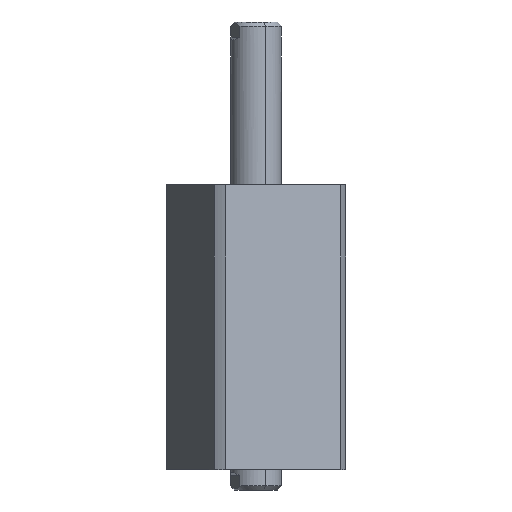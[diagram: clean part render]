
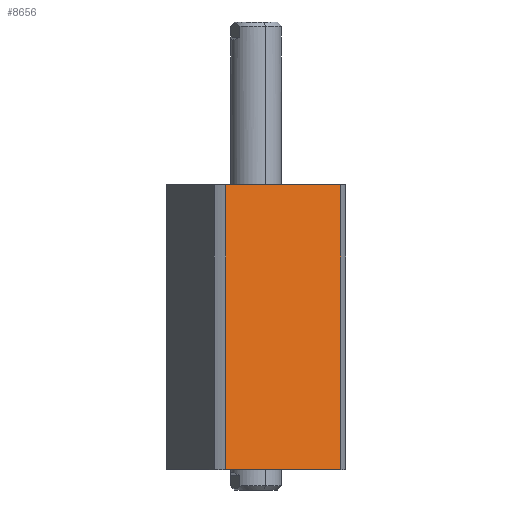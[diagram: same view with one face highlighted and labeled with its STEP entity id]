
A CAD part, front view. The second image highlights one B-rep face of the part: STEP entity #8656.
In plain terms, the highlighted planar face has unit normal (0.383, -0.924, 0) as drawn and (-1, 0, 0) by its records, which use the part's own axes.
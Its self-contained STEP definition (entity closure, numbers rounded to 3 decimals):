
#552 = DIRECTION ( 'NONE',  ( 0., -1., 0. ) ) ;
#738 = ORIENTED_EDGE ( 'NONE', *, *, #4561, .F. ) ;
#1349 = LINE ( 'NONE', #2189, #7461 ) ;
#1382 = DIRECTION ( 'NONE',  ( 0., 0., -1. ) ) ;
#1453 = LINE ( 'NONE', #7201, #1714 ) ;
#1483 = EDGE_CURVE ( 'NONE', #5508, #8251, #9061, .T. ) ;
#1714 = VECTOR ( 'NONE', #7993, 1000. ) ;
#2189 = CARTESIAN_POINT ( 'NONE',  ( -35., -30.615, -160. ) ) ;
#2223 = CARTESIAN_POINT ( 'NONE',  ( -35., -30.615, 0. ) ) ;
#2755 = CARTESIAN_POINT ( 'NONE',  ( -35., -30.615, 140. ) ) ;
#2914 = EDGE_CURVE ( 'NONE', #3368, #8251, #1349, .T. ) ;
#3363 = VECTOR ( 'NONE', #7467, 1000. ) ;
#3368 = VERTEX_POINT ( 'NONE', #2755 ) ;
#4561 = EDGE_CURVE ( 'NONE', #10315, #3368, #5463, .T. ) ;
#5045 = DIRECTION ( 'NONE',  ( 0., 1., 0. ) ) ;
#5366 = CARTESIAN_POINT ( 'NONE',  ( -35., 35., 0. ) ) ;
#5463 = LINE ( 'NONE', #5876, #3363 ) ;
#5508 = VERTEX_POINT ( 'NONE', #6738 ) ;
#5818 = CARTESIAN_POINT ( 'NONE',  ( -35., 35., 140. ) ) ;
#5876 = CARTESIAN_POINT ( 'NONE',  ( -35., 35., 140. ) ) ;
#6652 = ORIENTED_EDGE ( 'NONE', *, *, #9799, .F. ) ;
#6738 = CARTESIAN_POINT ( 'NONE',  ( -35., 30.615, 0. ) ) ;
#7201 = CARTESIAN_POINT ( 'NONE',  ( -35., 30.615, -160. ) ) ;
#7461 = VECTOR ( 'NONE', #1382, 1000. ) ;
#7467 = DIRECTION ( 'NONE',  ( 0., -1., 0. ) ) ;
#7993 = DIRECTION ( 'NONE',  ( 0., 0., 1. ) ) ;
#8251 = VERTEX_POINT ( 'NONE', #2223 ) ;
#8656 = ADVANCED_FACE ( 'NONE', ( #9024 ), #9015, .F. ) ;
#8706 = EDGE_LOOP ( 'NONE', ( #6652, #8724, #9018, #738 ) ) ;
#8724 = ORIENTED_EDGE ( 'NONE', *, *, #1483, .T. ) ;
#8770 = VECTOR ( 'NONE', #552, 1000. ) ;
#8831 = AXIS2_PLACEMENT_3D ( 'NONE', #5818, #9849, #5045 ) ;
#9015 = PLANE ( 'NONE',  #8831 ) ;
#9018 = ORIENTED_EDGE ( 'NONE', *, *, #2914, .F. ) ;
#9024 = FACE_OUTER_BOUND ( 'NONE', #8706, .T. ) ;
#9061 = LINE ( 'NONE', #5366, #8770 ) ;
#9357 = CARTESIAN_POINT ( 'NONE',  ( -35., 30.615, 140. ) ) ;
#9799 = EDGE_CURVE ( 'NONE', #5508, #10315, #1453, .T. ) ;
#9849 = DIRECTION ( 'NONE',  ( 1., 0., 0. ) ) ;
#10315 = VERTEX_POINT ( 'NONE', #9357 ) ;
